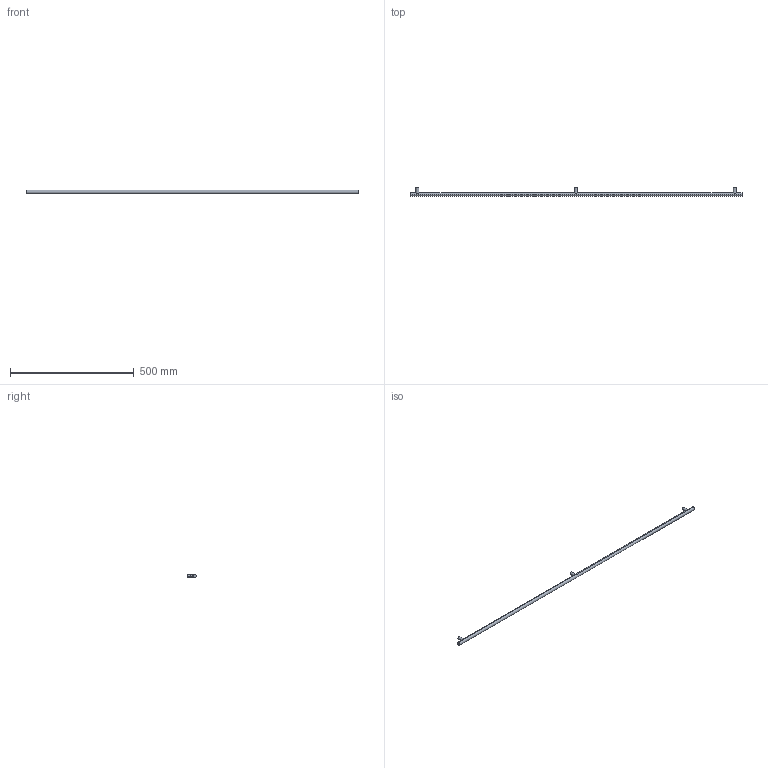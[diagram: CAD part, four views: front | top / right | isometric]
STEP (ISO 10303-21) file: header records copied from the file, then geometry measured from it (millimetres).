
FILE_DESCRIPTION( ( '' ), '1' );
FILE_NAME( 'D:/1.AUTOCAD EXPORT/Group 10/sheet_10_1/9071118.stp', '2013-10-21T10:01:33', ( '' ), ( '' ), ' ', ' ', ' ' );
FILE_SCHEMA( ( 'automotive_design' ) );
Length unit declared in the file: millimetre
Products named in the file (1): 1
Bounding box: 1340 x 35 x 14 mm (x, y, z)
Volume: 213195 mm3; surface area: 62201.9 mm2
Topology: 1 solids, 1 shells, 22 faces, 45 edges, 31 vertices
Faces by surface type: cylinder 14, plane 8
Entity records: 1358 total; most frequent: CARTESIAN_POINT 300, DIRECTION 104, STYLED_ITEM 99, PRESENTATION_STYLE_ASSIGNMENT 99, COLOUR_RGB 99, ORIENTED_EDGE 90, EDGE_CURVE 45, AXIS2_PLACEMENT_3D 45
